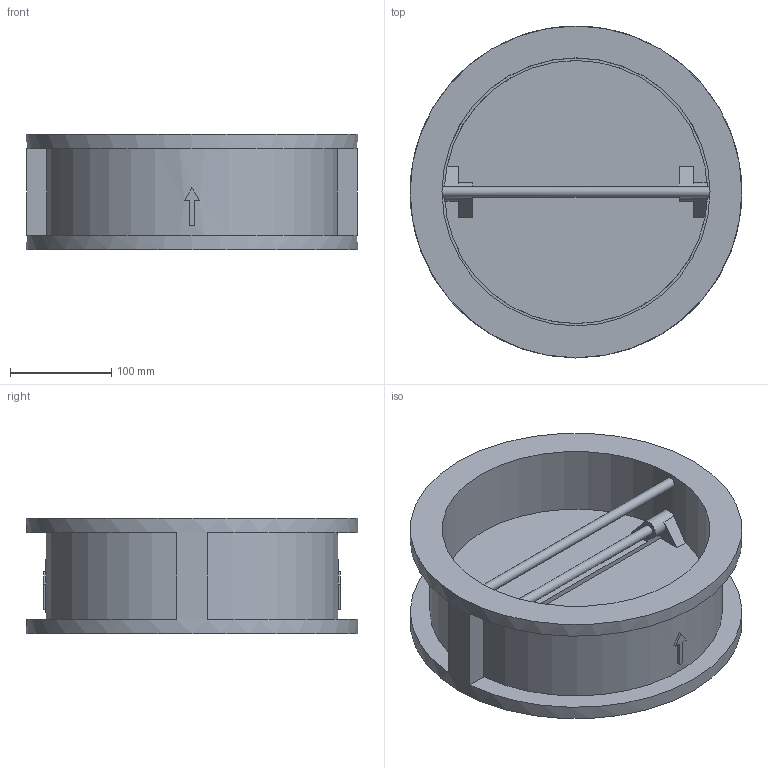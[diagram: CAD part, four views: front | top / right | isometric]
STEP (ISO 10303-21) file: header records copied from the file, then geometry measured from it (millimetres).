
FILE_DESCRIPTION(('STEP AP203'), '1');
FILE_NAME('孰囡囗 钺疣蝽 溻篚耱忸瘅囹 戾骠豚眦邂 010C.Y DN250', '', ('UNSPECIFIED'), ('UNSPECIFIED'), 'ASCON STEP Converter 1.6', 'ASCON Math Kernel', '');
FILE_SCHEMA(('CONFIG_CONTROL_DESIGN'));
Length unit declared in the file: millimetre
Bounding box: 328 x 328 x 114 mm (x, y, z)
Volume: 2799664 mm3; surface area: 449412.3 mm2
Topology: 1 solids, 1 shells, 75 faces, 210 edges, 138 vertices
Faces by surface type: plane 58, cylinder 16, cone 1
Full cylindrical faces by diameter (mm): 10 x4, 265 x1, 328 x1
Entity records: 4284 total; most frequent: CARTESIAN_POINT 1745, ORIENTED_EDGE 404, DIRECTION 370, EDGE_CURVE 202, VERTEX_POINT 138, LINE 130, VECTOR 130, AXIS2_PLACEMENT_3D 120
